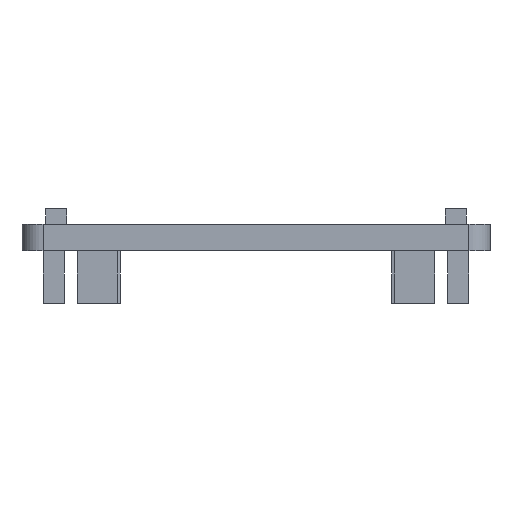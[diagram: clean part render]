
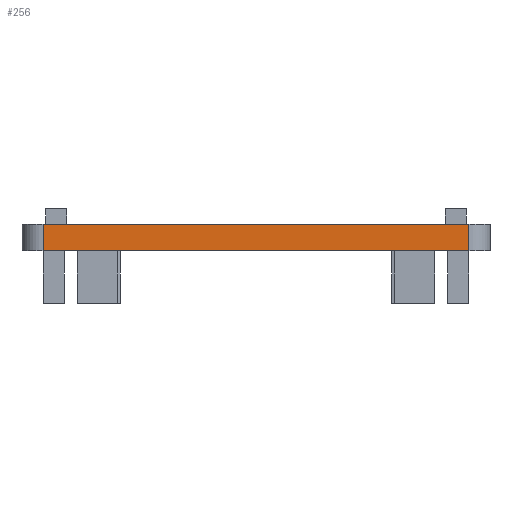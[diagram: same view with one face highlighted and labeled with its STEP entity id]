
A CAD part, front view. The second image highlights one B-rep face of the part: STEP entity #256.
In plain terms, the highlighted planar face has unit normal (0, -1, 0).
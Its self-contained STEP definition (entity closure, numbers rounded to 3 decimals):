
#37 = PLANE ( 'NONE',  #661 ) ;
#168 = DIRECTION ( 'NONE',  ( 0., 0., -1. ) ) ;
#207 = VECTOR ( 'NONE', #168, 1000. ) ;
#256 = ADVANCED_FACE ( 'NONE', ( #1216 ), #37, .F. ) ;
#370 = VERTEX_POINT ( 'NONE', #1386 ) ;
#516 = VECTOR ( 'NONE', #1080, 1000. ) ;
#519 = CARTESIAN_POINT ( 'NONE',  ( -20.25, -30., 2.5 ) ) ;
#521 = DIRECTION ( 'NONE',  ( 0., 0., -1. ) ) ;
#562 = DIRECTION ( 'NONE',  ( 1., 0., 0. ) ) ;
#655 = CARTESIAN_POINT ( 'NONE',  ( 20.25, -30., 2.5 ) ) ;
#661 = AXIS2_PLACEMENT_3D ( 'NONE', #519, #1554, #1400 ) ;
#675 = CARTESIAN_POINT ( 'NONE',  ( 20.25, -30., 0. ) ) ;
#713 = ORIENTED_EDGE ( 'NONE', *, *, #746, .T. ) ;
#720 = VERTEX_POINT ( 'NONE', #1033 ) ;
#746 = EDGE_CURVE ( 'NONE', #720, #370, #1290, .T. ) ;
#819 = LINE ( 'NONE', #1745, #516 ) ;
#870 = VECTOR ( 'NONE', #521, 1000. ) ;
#975 = ORIENTED_EDGE ( 'NONE', *, *, #1634, .F. ) ;
#1033 = CARTESIAN_POINT ( 'NONE',  ( -20.25, -30., 2.5 ) ) ;
#1080 = DIRECTION ( 'NONE',  ( 1., 0., 0. ) ) ;
#1148 = CARTESIAN_POINT ( 'NONE',  ( -20.25, -30., 0. ) ) ;
#1213 = VECTOR ( 'NONE', #562, 1000. ) ;
#1216 = FACE_OUTER_BOUND ( 'NONE', #1445, .T. ) ;
#1281 = EDGE_CURVE ( 'NONE', #370, #1895, #1758, .T. ) ;
#1290 = LINE ( 'NONE', #1318, #207 ) ;
#1315 = ORIENTED_EDGE ( 'NONE', *, *, #1281, .T. ) ;
#1318 = CARTESIAN_POINT ( 'NONE',  ( -20.25, -30., 2.5 ) ) ;
#1386 = CARTESIAN_POINT ( 'NONE',  ( -20.25, -30., 0. ) ) ;
#1400 = DIRECTION ( 'NONE',  ( 0., 0., 1. ) ) ;
#1445 = EDGE_LOOP ( 'NONE', ( #1315, #975, #1860, #713 ) ) ;
#1554 = DIRECTION ( 'NONE',  ( 0., 1., 0. ) ) ;
#1634 = EDGE_CURVE ( 'NONE', #1824, #1895, #1646, .T. ) ;
#1646 = LINE ( 'NONE', #1709, #870 ) ;
#1709 = CARTESIAN_POINT ( 'NONE',  ( 20.25, -30., 2.5 ) ) ;
#1745 = CARTESIAN_POINT ( 'NONE',  ( -20.25, -30., 2.5 ) ) ;
#1758 = LINE ( 'NONE', #1148, #1213 ) ;
#1818 = EDGE_CURVE ( 'NONE', #720, #1824, #819, .T. ) ;
#1824 = VERTEX_POINT ( 'NONE', #655 ) ;
#1860 = ORIENTED_EDGE ( 'NONE', *, *, #1818, .F. ) ;
#1895 = VERTEX_POINT ( 'NONE', #675 ) ;
